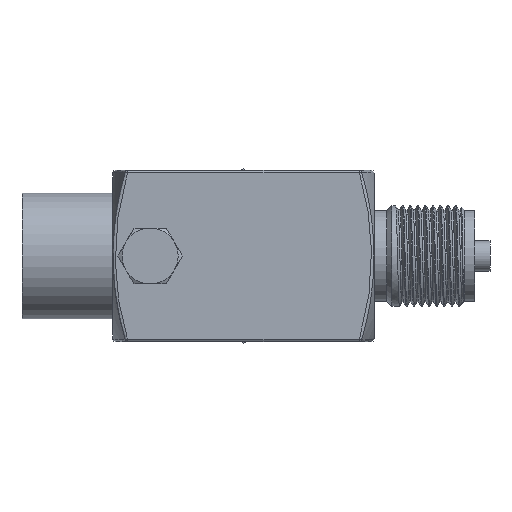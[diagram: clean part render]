
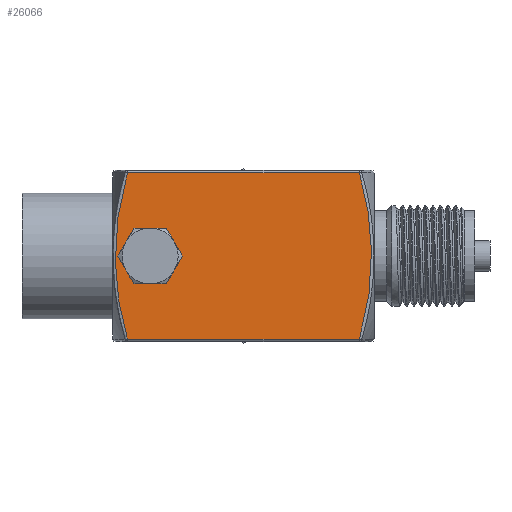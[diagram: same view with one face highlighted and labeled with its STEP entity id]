
A CAD part, front view. The second image highlights one B-rep face of the part: STEP entity #26066.
In plain terms, the highlighted planar face has unit normal (0, -1, 0).
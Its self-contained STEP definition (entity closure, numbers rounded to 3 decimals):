
#1402 = ORIENTED_EDGE ( 'NONE', *, *, #20455, .T. ) ;
#1722 = CARTESIAN_POINT ( 'NONE',  ( -18.533, -17., 4.25 ) ) ;
#1725 = CARTESIAN_POINT ( 'NONE',  ( 26., -17., -16.5 ) ) ;
#1985 = CARTESIAN_POINT ( 'NONE',  ( -25.261, -17., -5.571 ) ) ;
#2411 = CARTESIAN_POINT ( 'NONE',  ( 25.456, -17., -2.805 ) ) ;
#2786 = CARTESIAN_POINT ( 'NONE',  ( 24.665, -17., -9.695 ) ) ;
#3451 = CARTESIAN_POINT ( 'NONE',  ( 23.043, -17., -16.5 ) ) ;
#4036 = DIRECTION ( 'NONE',  ( 0., 1., 0. ) ) ;
#4410 = FACE_OUTER_BOUND ( 'NONE', #22761, .T. ) ;
#5063 = CARTESIAN_POINT ( 'NONE',  ( -23.809, -17., -13.797 ) ) ;
#5072 = CARTESIAN_POINT ( 'NONE',  ( 23.452, -17., -15.158 ) ) ;
#5646 = CARTESIAN_POINT ( 'NONE',  ( 25.21, -17., 5.564 ) ) ;
#6375 = ORIENTED_EDGE ( 'NONE', *, *, #26135, .T. ) ;
#7652 = CARTESIAN_POINT ( 'NONE',  ( -23.043, -17., -16.5 ) ) ;
#7965 = CARTESIAN_POINT ( 'NONE',  ( -24.415, -17., -11.066 ) ) ;
#8543 = CARTESIAN_POINT ( 'NONE',  ( 23.809, -17., -13.797 ) ) ;
#9647 = PLANE ( 'NONE',  #16922 ) ;
#10301 = VERTEX_POINT ( 'NONE', #3451 ) ;
#11041 = CARTESIAN_POINT ( 'NONE',  ( 23.043, -17., 16.5 ) ) ;
#11091 = CARTESIAN_POINT ( 'NONE',  ( -23.043, -17., 16.5 ) ) ;
#11193 = CARTESIAN_POINT ( 'NONE',  ( -18.533, -17., 0. ) ) ;
#11685 = CARTESIAN_POINT ( 'NONE',  ( 23.043, -17., 16.5 ) ) ;
#11725 = DIRECTION ( 'NONE',  ( -1., 0., 0. ) ) ;
#12024 = ORIENTED_EDGE ( 'NONE', *, *, #33914, .T. ) ;
#13516 = DIRECTION ( 'NONE',  ( 0., 0., 1. ) ) ;
#14199 = CARTESIAN_POINT ( 'NONE',  ( 25.409, -17., 2.767 ) ) ;
#14235 = LINE ( 'NONE', #14623, #24592 ) ;
#14580 = CARTESIAN_POINT ( 'NONE',  ( 23.861, -17., 13.816 ) ) ;
#14623 = CARTESIAN_POINT ( 'NONE',  ( 26., -17., 16.5 ) ) ;
#16234 = B_SPLINE_CURVE_WITH_KNOTS ( 'NONE', 3,
 ( #34756, #5072, #8543, #20035, #2786, #16924, #2411, #37872, #14199, #5646, #17508, #29336, #14580, #11685 ),
 .UNSPECIFIED., .F., .F.,
 ( 4, 2, 2, 2, 2, 2, 4 ),
 ( 0., 0.004, 0.008, 0.017, 0.021, 0.025, 0.034 ),
 .UNSPECIFIED. ) ;
#16626 = LINE ( 'NONE', #1725, #35769 ) ;
#16815 = DIRECTION ( 'NONE',  ( 0., 0., 1. ) ) ;
#16912 = CARTESIAN_POINT ( 'NONE',  ( -23.452, -17., -15.158 ) ) ;
#16922 = AXIS2_PLACEMENT_3D ( 'NONE', #33503, #4036, #16815 ) ;
#16924 = CARTESIAN_POINT ( 'NONE',  ( 25.261, -17., -5.571 ) ) ;
#17316 = CARTESIAN_POINT ( 'NONE',  ( -25.061, -17., 6.953 ) ) ;
#17508 = CARTESIAN_POINT ( 'NONE',  ( 25.061, -17., 6.953 ) ) ;
#18721 = CARTESIAN_POINT ( 'NONE',  ( -23.043, -17., 16.5 ) ) ;
#19822 = CARTESIAN_POINT ( 'NONE',  ( -25.457, -17., 1.37 ) ) ;
#20021 = CARTESIAN_POINT ( 'NONE',  ( -25.456, -17., -2.805 ) ) ;
#20035 = CARTESIAN_POINT ( 'NONE',  ( 24.415, -17., -11.066 ) ) ;
#20455 = EDGE_CURVE ( 'NONE', #22522, #10301, #16626, .T. ) ;
#21256 = CIRCLE ( 'NONE', #37997, 4.25 ) ;
#21647 = B_SPLINE_CURVE_WITH_KNOTS ( 'NONE', 3,
 ( #11091, #37288, #34567, #17316, #31653, #34742, #19822, #20021, #1985, #31277, #7965, #5063, #16912, #28760 ),
 .UNSPECIFIED., .F., .F.,
 ( 4, 2, 2, 2, 2, 2, 4 ),
 ( 0., 0.008, 0.013, 0.017, 0.025, 0.029, 0.033 ),
 .UNSPECIFIED. ) ;
#22522 = VERTEX_POINT ( 'NONE', #7652 ) ;
#22761 = EDGE_LOOP ( 'NONE', ( #1402, #25420, #32701, #12024 ) ) ;
#24592 = VECTOR ( 'NONE', #11725, 1000. ) ;
#25420 = ORIENTED_EDGE ( 'NONE', *, *, #29007, .T. ) ;
#26066 = ADVANCED_FACE ( 'NONE', ( #36260, #4410 ), #9647, .F. ) ;
#26135 = EDGE_CURVE ( 'NONE', #28464, #28464, #21256, .T. ) ;
#26404 = VERTEX_POINT ( 'NONE', #18721 ) ;
#28464 = VERTEX_POINT ( 'NONE', #1722 ) ;
#28671 = DIRECTION ( 'NONE',  ( 0., 1., 0. ) ) ;
#28760 = CARTESIAN_POINT ( 'NONE',  ( -23.043, -17., -16.5 ) ) ;
#29007 = EDGE_CURVE ( 'NONE', #10301, #37470, #16234, .T. ) ;
#29302 = EDGE_LOOP ( 'NONE', ( #6375 ) ) ;
#29336 = CARTESIAN_POINT ( 'NONE',  ( 24.462, -17., 11.093 ) ) ;
#29889 = EDGE_CURVE ( 'NONE', #37470, #26404, #14235, .T. ) ;
#31277 = CARTESIAN_POINT ( 'NONE',  ( -24.665, -17., -9.695 ) ) ;
#31653 = CARTESIAN_POINT ( 'NONE',  ( -25.21, -17., 5.564 ) ) ;
#31969 = DIRECTION ( 'NONE',  ( 1., 0., 0. ) ) ;
#32701 = ORIENTED_EDGE ( 'NONE', *, *, #29889, .T. ) ;
#33503 = CARTESIAN_POINT ( 'NONE',  ( 26., -17., -17. ) ) ;
#33914 = EDGE_CURVE ( 'NONE', #26404, #22522, #21647, .T. ) ;
#34567 = CARTESIAN_POINT ( 'NONE',  ( -24.462, -17., 11.093 ) ) ;
#34742 = CARTESIAN_POINT ( 'NONE',  ( -25.409, -17., 2.767 ) ) ;
#34756 = CARTESIAN_POINT ( 'NONE',  ( 23.043, -17., -16.5 ) ) ;
#35769 = VECTOR ( 'NONE', #31969, 1000. ) ;
#36260 = FACE_BOUND ( 'NONE', #29302, .T. ) ;
#37288 = CARTESIAN_POINT ( 'NONE',  ( -23.861, -17., 13.816 ) ) ;
#37470 = VERTEX_POINT ( 'NONE', #11041 ) ;
#37872 = CARTESIAN_POINT ( 'NONE',  ( 25.457, -17., 1.37 ) ) ;
#37997 = AXIS2_PLACEMENT_3D ( 'NONE', #11193, #28671, #13516 ) ;
